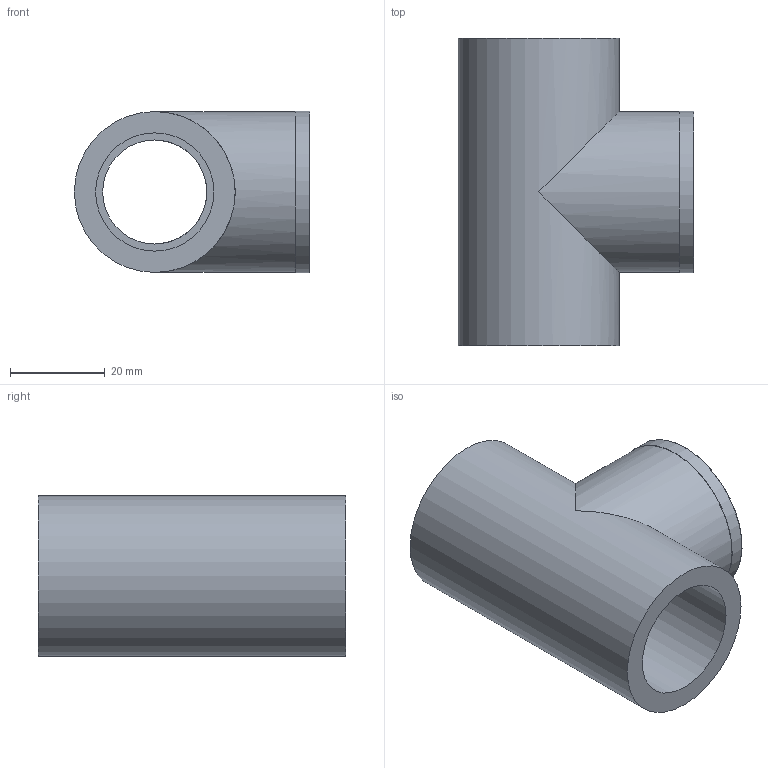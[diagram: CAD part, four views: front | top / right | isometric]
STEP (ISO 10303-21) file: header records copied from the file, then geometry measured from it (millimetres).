
FILE_DESCRIPTION(/* description */ (''),/* implementation_level */ '2;1');
FILE_NAME(/* name */ 'C:\Users\POLYPIPE\Desktop\DATASET INVENTOR\LIBRERIA EFFAST\RACCORDI 3DxWEB\RGR\3D_RGRTIR\3D_RGRTIR025C.stp',/* time_stamp */ '2018-01-19T17:55:43+01:00',/* author */ ('POLYPIPE'),/* organization */ (''),/* preprocessor_version */ 'ST-DEVELOPER v16.1',/* originating_system */ 'Autodesk Inventor 2016',/* authorisation */ '');
FILE_SCHEMA (('CONFIG_CONTROL_DESIGN'));
Length unit declared in the file: centimetre
Products named in the file (1): 3D_RGRTIR025C
Bounding box: 49.75 x 65 x 34.17 mm (x, y, z)
Volume: 35850.3 mm3; surface area: 16871.4 mm2
Topology: 1 solids, 1 shells, 24 faces, 48 edges, 32 vertices
Faces by surface type: cylinder 9, plane 9, bspline 5, torus 1
Full cylindrical faces by diameter (mm): 22 x2, 24.117 x1, 25 x2, 28 x1, 34 x2, 34.2 x1
Entity records: 3889 total; most frequent: CARTESIAN_POINT 3376, DIRECTION 89, ORIENTED_EDGE 74, EDGE_LOOP 43, AXIS2_PLACEMENT_3D 43, EDGE_CURVE 37, VERTEX_POINT 30, STYLED_ITEM 25
